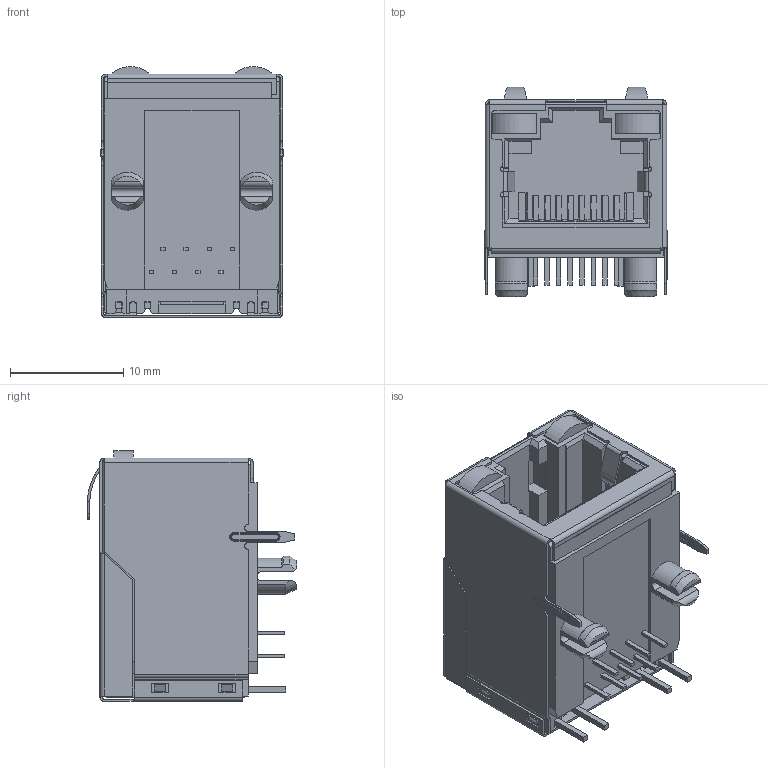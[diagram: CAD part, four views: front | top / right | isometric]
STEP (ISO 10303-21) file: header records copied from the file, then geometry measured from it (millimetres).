
FILE_DESCRIPTION((''),'2;1');
FILE_NAME('R10G-CAT6A-14','2023-10-19T16:45:54',('Administrator'),(''),'CREO PARAMETRIC BY PTC INC, 2019010','CREO PARAMETRIC BY PTC INC, 2019010','');
FILE_SCHEMA(('CONFIG_CONTROL_DESIGN'));
Length unit declared in the file: millimetre
Products named in the file (1): R10G-CAT6A-14
Bounding box: 16.19 x 18.47 x 22.14 mm (x, y, z)
Volume: 2495.6 mm3; surface area: 6946.1 mm2
Topology: 1 solids, 2 shells, 1395 faces, 4198 edges, 2741 vertices
Faces by surface type: plane 1092, cylinder 275, torus 16, cone 12
Entity records: 47133 total; most frequent: CARTESIAN_POINT 8791, ORIENTED_EDGE 8396, DIRECTION 7466, EDGE_CURVE 4198, VECTOR 3492, LINE 3492, VERTEX_POINT 2741, AXIS2_PLACEMENT_3D 1987
